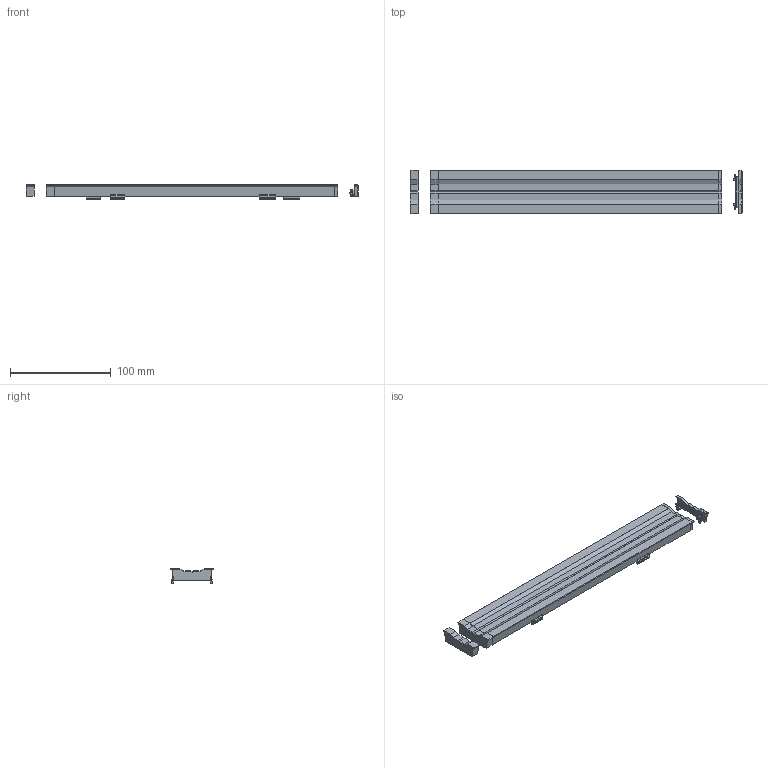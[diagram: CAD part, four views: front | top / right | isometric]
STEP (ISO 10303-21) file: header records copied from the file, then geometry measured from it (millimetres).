
FILE_DESCRIPTION(('Creo Elements/Direct Modeling STEP Export'),'2;1');
FILE_NAME('3D_optic_9705x.zip.stp','2020-05-11T 9:38:24',(''),(''),'Creo Elements/Direct Modeling STEP processor for AP214 (Solid Model)','Creo Elements/Direct Modeling 20.1B 02-Apr-2019 (C) Parametric Technology GmbH','');
FILE_SCHEMA(('AUTOMOTIVE_DESIGN { 1 0 10303 214 1 1 1 1 }'));
Length unit declared in the file: millimetre
Products named in the file (6): endkappe_federseite_970_971_567196.1; endkappe_nutseite_970_971_567197.2; endkappe_nutseite_970_971_567197.1.1; endkappe_federseite_970_971_567196.2; abdeckung_97050_RA0822_12020_569760_wide_90°_280mm_beide_stirnseiten
_geoeffnet..1; k9_97050_97053_97057
Assembly tree (5 placements, depth 2):
  k9_97050_97053_97057
    abdeckung_97050_RA0822_12020_569760_wide_90°_280mm_beide_stirnseiten
_geoeffnet..1
    endkappe_federseite_970_971_567196.2
    endkappe_nutseite_970_971_567197.1.1
    endkappe_nutseite_970_971_567197.2
    endkappe_federseite_970_971_567196.1
Bounding box: 330 x 43 x 14.4 mm (x, y, z)
Volume: 54255.1 mm3; surface area: 46721.1 mm2
Topology: 5 solids, 5 shells, 941 faces, 2583 edges, 1681 vertices
Faces by surface type: plane 504, cylinder 343, bspline 77, cone 9, torus 8
Entity records: 40915 total; most frequent: CARTESIAN_POINT 11079, ORIENTED_EDGE 5166, DIRECTION 4584, EDGE_CURVE 2583, VECTOR 1708, LINE 1708, VERTEX_POINT 1681, AXIS2_PLACEMENT_3D 1438
